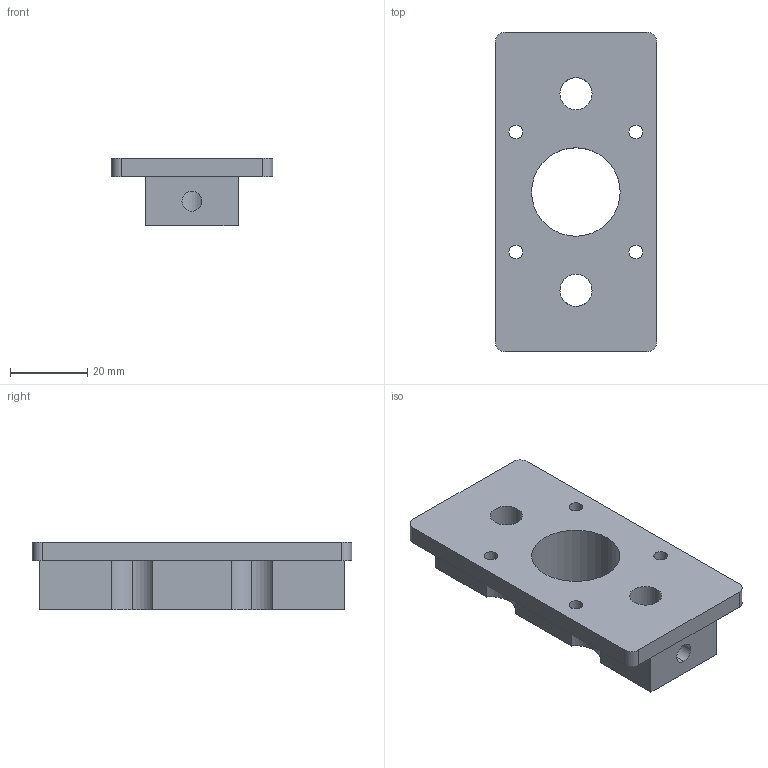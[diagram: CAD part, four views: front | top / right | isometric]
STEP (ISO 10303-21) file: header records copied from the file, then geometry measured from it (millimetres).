
FILE_DESCRIPTION (( 'STEP AP203' ), '1' );
FILE_NAME ('vert support motor side.STEP', '2017-10-24T20:04:50', ( '' ), ( '' ), 'SwSTEP 2.0', 'SolidWorks 2016', '' );
FILE_SCHEMA (( 'CONFIG_CONTROL_DESIGN' ));
Length unit declared in the file: inch
Products named in the file (1): vert support motor side
Bounding box: 41.73 x 82.55 x 17.46 mm (x, y, z)
Volume: 29488.4 mm3; surface area: 12225 mm2
Topology: 1 solids, 1 shells, 51 faces, 136 edges, 88 vertices
Faces by surface type: cylinder 28, plane 15, cone 8
Entity records: 1837 total; most frequent: CARTESIAN_POINT 400, DIRECTION 296, ORIENTED_EDGE 272, EDGE_CURVE 136, AXIS2_PLACEMENT_3D 112, VERTEX_POINT 88, VECTOR 72, LINE 72
